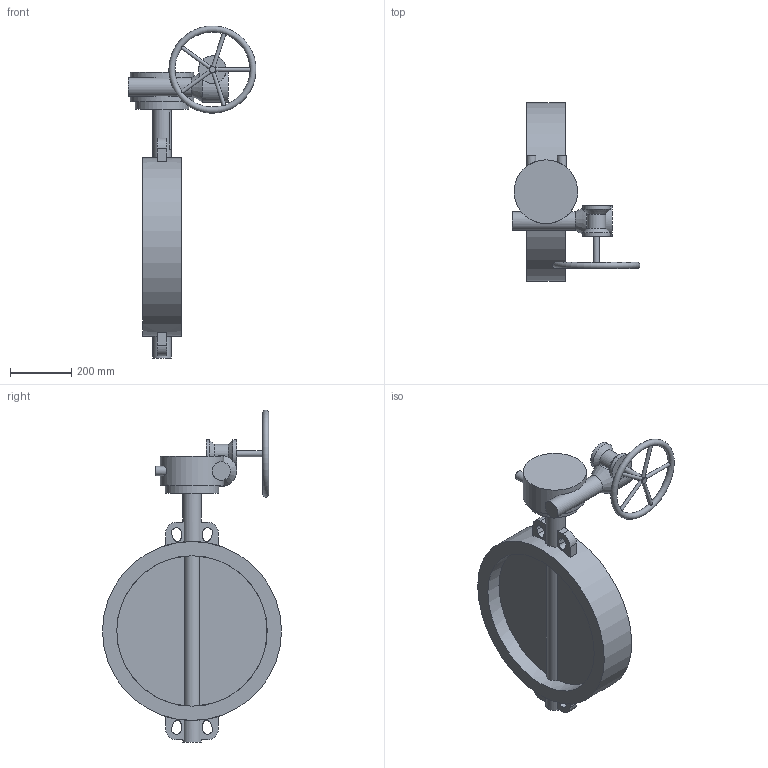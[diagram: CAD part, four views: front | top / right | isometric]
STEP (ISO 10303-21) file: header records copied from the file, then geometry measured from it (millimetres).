
FILE_DESCRIPTION(('STEP AP203'), '1');
FILE_NAME('Çàòâîð 017W.Z(÷óãóí) DN500 PN10_16 ðåäóêòîð', '', ('UNSPECIFIED'), ('UNSPECIFIED'), 'ASCON STEP Converter 1.6', 'ASCON Math Kernel', '');
FILE_SCHEMA(('CONFIG_CONTROL_DESIGN'));
Length unit declared in the file: millimetre
Bounding box: 418.49 x 585 x 1085.45 mm (x, y, z)
Volume: 21911442.6 mm3; surface area: 1337590.6 mm2
Topology: 1 solids, 1 shells, 779 faces, 2228 edges, 1484 vertices
Faces by surface type: cylinder 588, plane 187, cone 3, torus 1
Full cylindrical faces by diameter (mm): 12 x5, 14 x4, 18 x4, 20 x2, 30 x2, 60 x3, 90 x2, 100 x1, 175 x1, 208 x1, 491.6 x2, 585 x1
Entity records: 35336 total; most frequent: CARTESIAN_POINT 7716, DIRECTION 4887, ORIENTED_EDGE 4394, EDGE_CURVE 2197, AXIS2_PLACEMENT_3D 1960, VERTEX_POINT 1483, CIRCLE 1180, LINE 967
